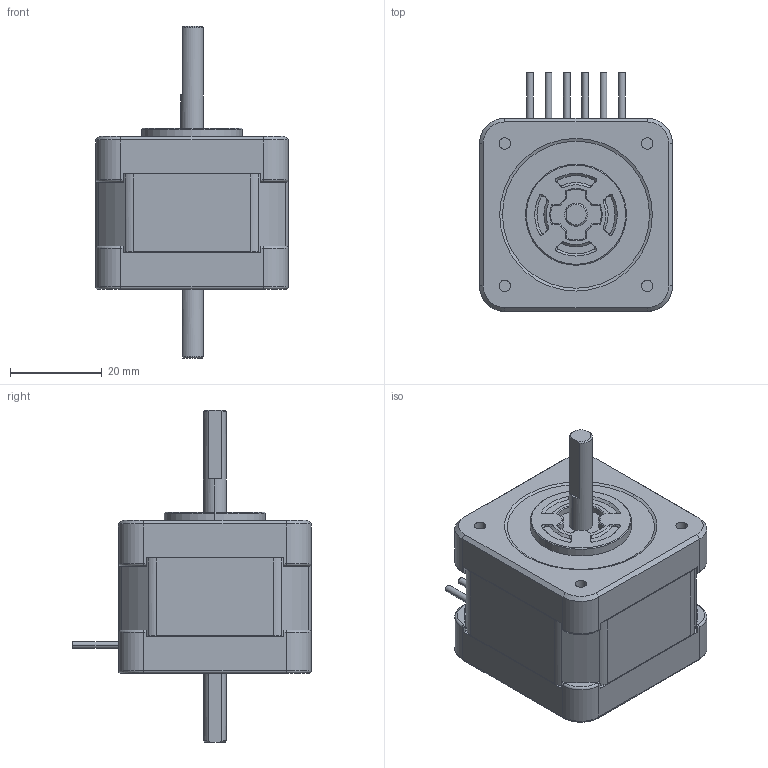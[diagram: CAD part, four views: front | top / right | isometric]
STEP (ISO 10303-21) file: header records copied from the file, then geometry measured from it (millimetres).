
FILE_DESCRIPTION (( 'STEP AP203' ), '1' );
FILE_NAME ('SH1421-0411.STEP', '2012-06-22T12:39:29', ( 'sanyodenki-admin' ), ( '' ), 'SwSTEP 2.0', 'SolidWorks 2011', '' );
FILE_SCHEMA (( 'CONFIG_CONTROL_DESIGN' ));
Length unit declared in the file: millimetre
Products named in the file (1): SH1421-0411
Bounding box: 42 x 52 x 72.25 mm (x, y, z)
Volume: 57610 mm3; surface area: 10795.9 mm2
Topology: 1 solids, 1 shells, 352 faces, 865 edges, 533 vertices
Faces by surface type: plane 156, cylinder 109, cone 57, bspline 18, torus 12
Entity records: 10797 total; most frequent: CARTESIAN_POINT 2493, DIRECTION 1726, ORIENTED_EDGE 1726, EDGE_CURVE 863, AXIS2_PLACEMENT_3D 638, VERTEX_POINT 533, VECTOR 450, LINE 450
